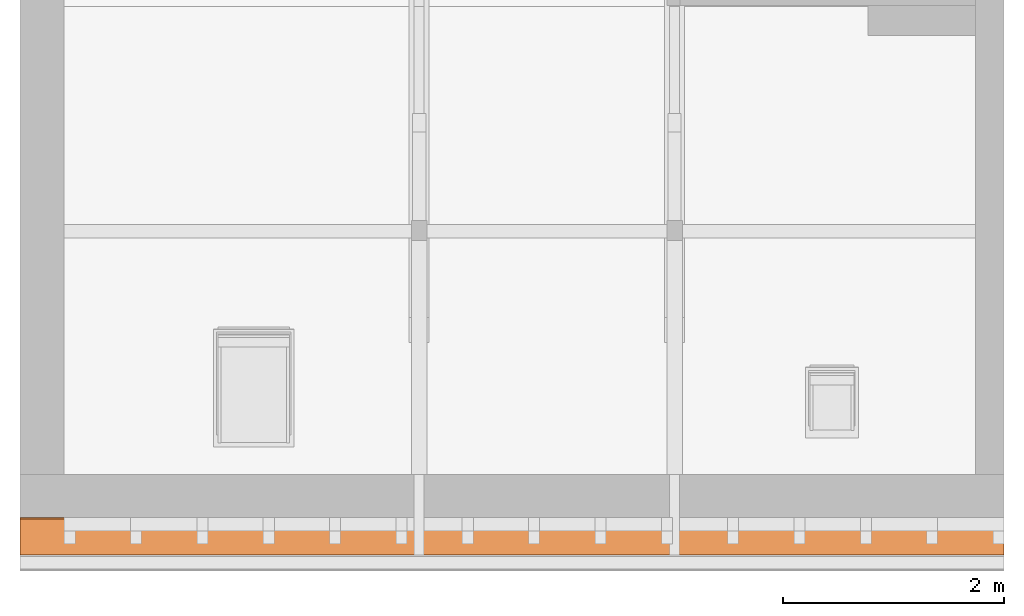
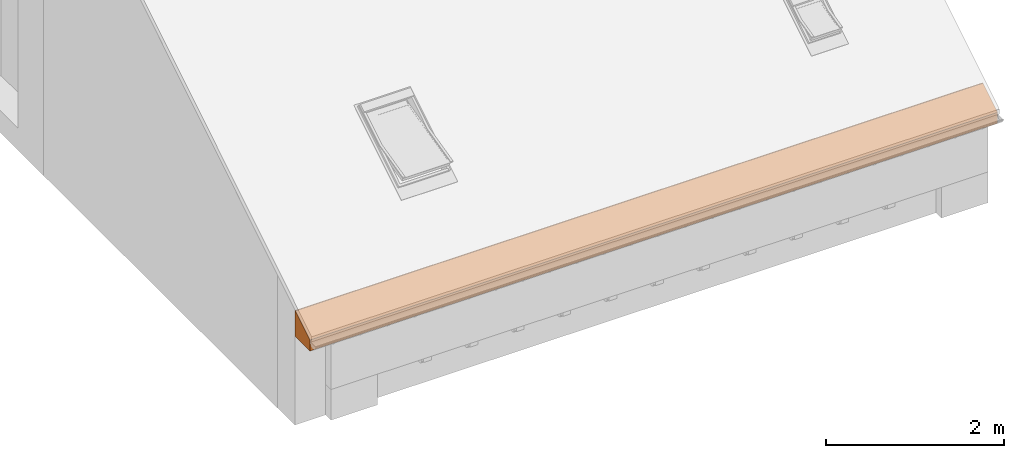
"""IFC4 building model written with IfcOpenShell, lengths in metres."""

from ifc_helpers import new_model, entity, si_unit, converted_unit, derived_unit, frame, origin, place, context, subcontext, project, spatial, faceted_brep, element, save


model = new_model("IFC4")

# Units and contexts
model_context = context("Model", 3, precision=1e-05, world=origin())
body_context = subcontext(model_context, "Body", "Model", "MODEL_VIEW")
ifc_project = project(units=[si_unit("LENGTHUNIT", "METRE"), si_unit("AREAUNIT", "SQUARE_METRE"), si_unit("VOLUMEUNIT", "CUBIC_METRE"), si_unit("MASSUNIT", "GRAM", prefix="KILO"), converted_unit("PLANEANGLEUNIT", "DEGREE", entity("IfcPlaneAngleMeasure", 0.0174532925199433), si_unit("PLANEANGLEUNIT", "RADIAN"), dimensions=[0, 0, 0, 0, 0, 0, 0]), derived_unit("THERMALTRANSMITTANCEUNIT", [(si_unit("POWERUNIT", "WATT"), 1), (si_unit("THERMODYNAMICTEMPERATUREUNIT", "KELVIN"), -1), (si_unit("LENGTHUNIT", "METRE"), -2)]), derived_unit("VOLUMETRICFLOWRATEUNIT", [(si_unit("LENGTHUNIT", "METRE"), 3), (converted_unit("TIMEUNIT", "hour", entity("IfcTimeMeasure", 3600.0), si_unit("TIMEUNIT", "SECOND"), dimensions=[0, 0, 1, 0, 0, 0, 0]), -1), (si_unit("LENGTHUNIT", "METRE"), -1)])], contexts=[model_context])

# Building, storeys
building_placement = place(None, origin())
building = spatial("IfcBuilding", under=ifc_project, at=building_placement, Name="Bestandsgebäude A - Sporthalle / Wohnhaus (TB 100-499)   ANPASSEN !!!", CompositionType="ELEMENT")
storey_1_placement = place(building_placement, frame((0.0, 0.0, 7.71)))
storey_1 = spatial("IfcBuildingStorey", under=building, at=storey_1_placement, Name="Geb. A Dachgeschoss (TB 450-499)", CompositionType="ELEMENT", Elevation=7.71)
storey_2_placement = place(storey_1_placement, frame((0.0, 0.0, 7.71)))
storey_2 = spatial("IfcBuildingStorey", under=storey_1, at=storey_2_placement, Name="Architektur (TB 450-459)", CompositionType="PARTIAL")

# Proxy
proxy_placement = place(storey_2_placement, frame((-8.9, -0.340000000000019, -6.89)))
element("IfcBuildingElementProxy", 1, at=proxy_placement, inside=storey_2, context=body_context, shape_type="Brep", body=[
    faceted_brep([(0.0, 0.0, 0.150000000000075), (0.0, 0.0, 0.0), (0.0, 0.340000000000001, 0.0), (0.0, 0.339999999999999, 0.35174191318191), (0.0, 0.326265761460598, 0.35174191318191), (8.9, 0.340000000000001, 0.0), (8.9, 0.339999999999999, 0.35174191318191), (8.9, 0.0, 0.0), (8.9, 0.0, 0.150000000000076), (8.9, 0.326265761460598, 0.35174191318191)], [[[0, 1, 2, 3, 4]], [[3, 2, 5, 6]], [[6, 5, 7, 8, 9]], [[8, 7, 1, 0]], [[1, 7, 5, 2]], [[3, 6, 9, 4]], [[4, 9, 8, 0]]], orient=[[False], [False], [False], [False], [False], [False], [False]]),
])

save(model, "model.ifc")
